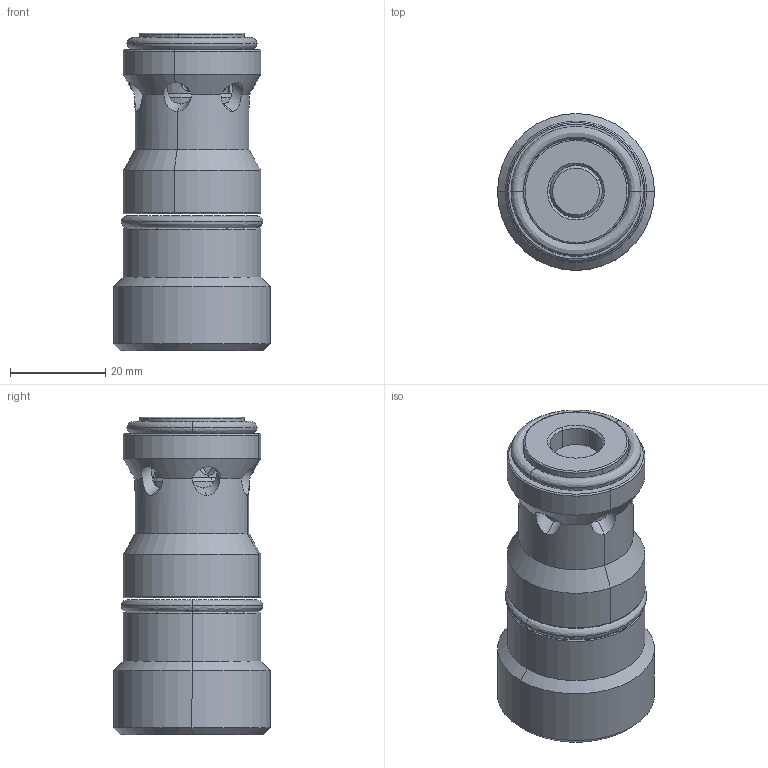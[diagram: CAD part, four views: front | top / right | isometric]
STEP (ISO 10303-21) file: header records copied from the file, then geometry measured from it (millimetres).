
FILE_DESCRIPTION (( 'STEP AP214' ), '1' );
FILE_NAME ('FT2267_6-12.STEP', '2015-03-30T19:38:07', ( '' ), ( '' ), 'SwSTEP 2.0', 'SolidWorks 2014', '' );
FILE_SCHEMA (( 'AUTOMOTIVE_DESIGN' ));
Length unit declared in the file: millimetre
Products named in the file (1): FT2267_6-12
Bounding box: 33 x 33 x 66.8 mm (x, y, z)
Surface area: 10899.6 mm2 (no closed solid volume)
Topology: 0 solids, 7 shells, 192 faces, 601 edges, 397 vertices
Faces by surface type: plane 79, cylinder 47, bspline 40, cone 18, torus 8
Entity records: 12168 total; most frequent: CARTESIAN_POINT 5177, ORIENTED_EDGE 1046, DIRECTION 833, EDGE_CURVE 599, VERTEX_POINT 397, LINE 311, VECTOR 311, AXIS2_PLACEMENT_3D 261
